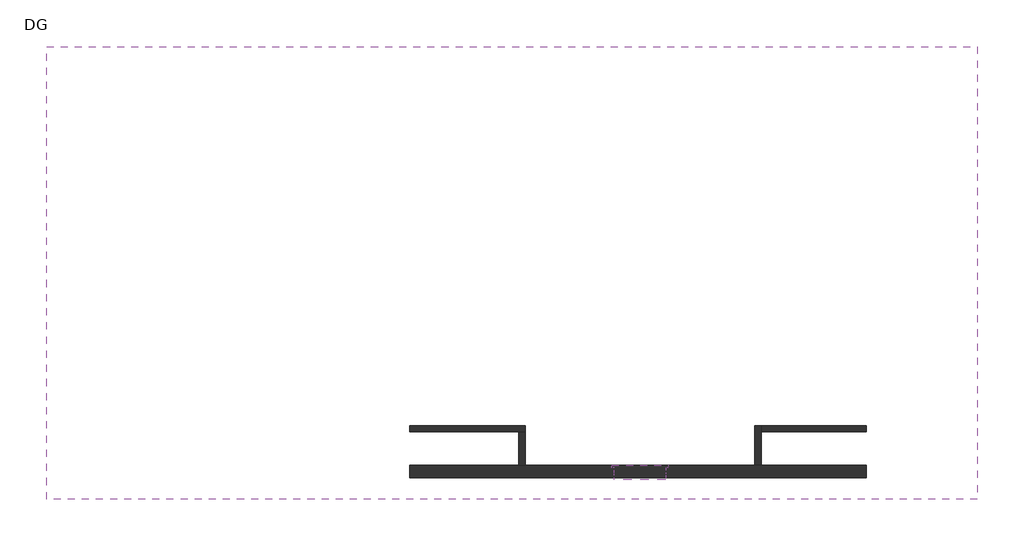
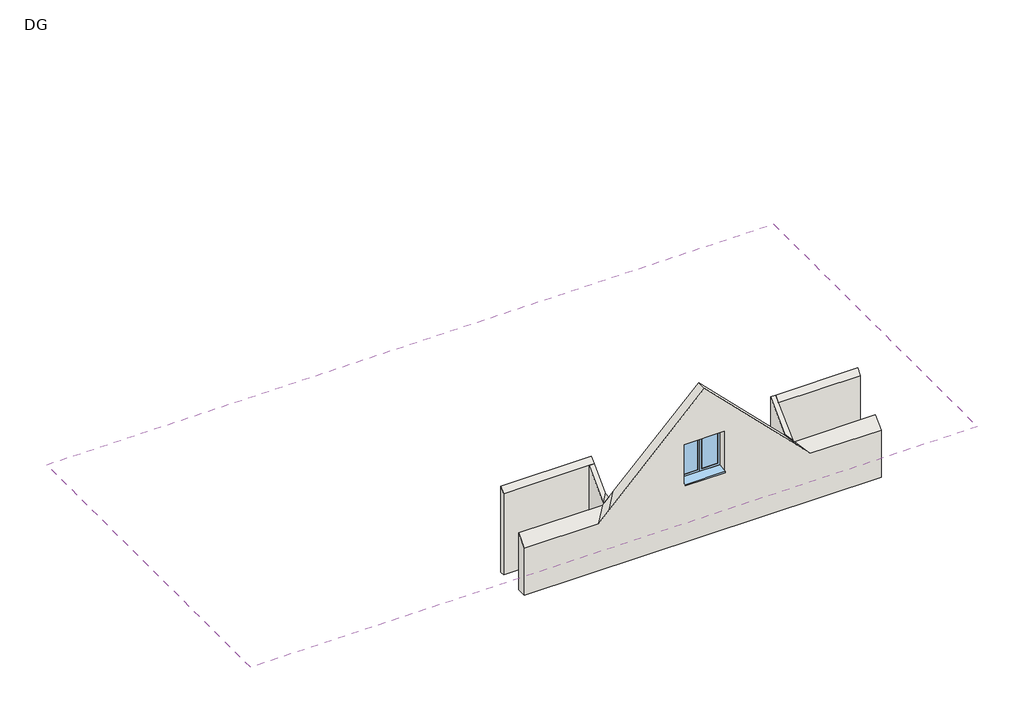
# One storey: 5 walls, 1 roof, 1 window.
"""IFC4 building model written with IfcOpenShell, lengths in millimetres."""

from ifc_helpers import new_model, si_unit, frame, origin, place, context, project, spatial, polyline, outline, extrude, faceted_brep, transform, mapped, element, save
from components import window_120_x_203_22d15c25

model = new_model("IFC4")

# Units and contexts
model_context = context("Model", 3, world=origin())
ifc_project = project(units=[si_unit("LENGTHUNIT", "METRE", prefix="MILLI")], contexts=[model_context])

# Site, building, storey
site = spatial("IfcSite", under=ifc_project)
building = spatial("IfcBuilding", under=site)
storey = spatial("IfcBuildingStorey", under=building, Name="DG", Elevation=5500.0)

# Roof
placement = place(None, origin())
element("IfcRoof", 1, ObjectType="Ziegel", at=placement, inside=storey, context=model_context, shape_type="Brep", body=[
    faceted_brep([(2093.7614381, 13791.1723893, 11800.0), (2093.7614381, 19091.1723893, 6500.0), (23893.7614381, 19091.1723893, 6500.0), (23893.7614381, 13791.1723893, 11800.0), (19173.7614381, 18591.1723893, 7000.0), (12813.7614381, 18591.1723893, 7000.0), (15993.7614381, 15411.1723893, 10180.0), (23893.7614381, 8491.1723893, 6500.0), (2093.7614381, 8491.1723893, 6500.0), (12813.7614381, 8991.1723893, 7000.0), (19173.7614381, 8991.1723893, 7000.0), (15993.7614381, 12171.1723893, 10180.0), (2093.7614381, 19091.1723893, 6825.2691193), (2093.7614381, 13791.1723893, 12125.2691193), (23893.7614381, 13791.1723893, 12125.2691193), (23893.7614381, 19091.1723893, 6825.2691193), (13139.0305574, 18591.1723893, 7325.2691193), (18848.4923187, 18591.1723893, 7325.2691193), (15993.7614381, 15736.4415086, 10180.0), (2093.7614381, 8491.1723893, 6825.2691193), (23893.7614381, 8491.1723893, 6825.2691193), (18848.4923187, 8991.1723893, 7325.2691193), (13139.0305574, 8991.1723893, 7325.2691193), (15993.7614381, 11845.9032699, 10180.0)], [[[0, 1, 2, 3], [4, 5, 6]], [[0, 3, 7, 8], [9, 10, 11]], [[12, 13, 14, 15], [16, 17, 18]], [[14, 13, 19, 20], [21, 22, 23]], [[20, 19, 8, 7]], [[12, 15, 2, 1]], [[1, 0, 8, 19, 13, 12]], [[3, 2, 15, 14, 20, 7]], [[21, 10, 9, 22]], [[10, 21, 23, 11]], [[22, 9, 11, 23]], [[16, 5, 4, 17]], [[5, 16, 18, 6]], [[17, 4, 6, 18]]]),
])

# Walls
element("IfcWall", 2, ObjectType="_Aussendämmung.Backstein", at=placement, inside=storey, context=model_context, shape_type="Brep", body=[
    faceted_brep([(21293.7614381, 9291.1723893, 5500.0), (18833.7614381, 9291.1723893, 5500.0), (18683.7614381, 9291.1723893, 5500.0), (13303.7614381, 9291.1723893, 5500.0), (13153.7614381, 9291.1723893, 5500.0), (10593.7614381, 9291.1723893, 5500.0), (10593.7614381, 9291.1723893, 7300.0), (13113.7614381, 9291.1723893, 7300.0), (13153.7614381, 9291.1723893, 7340.0), (13303.7614381, 9291.1723893, 7490.0), (13439.0305574, 9291.1723893, 7625.2691193), (15993.7614381, 9291.1723893, 10180.0), (18548.4923187, 9291.1723893, 7625.2691193), (18683.7614381, 9291.1723893, 7490.0), (18833.7614381, 9291.1723893, 7340.0), (18873.7614381, 9291.1723893, 7300.0), (21293.7614381, 9291.1723893, 7300.0), (16653.7614381, 9291.1723893, 8905.0), (15333.7614381, 9291.1723893, 8905.0), (15333.7614381, 9291.1723893, 7325.0), (16653.7614381, 9291.1723893, 7325.0), (21293.7614381, 8991.1723893, 5500.0), (21293.7614381, 8991.1723893, 7000.0), (19173.7614381, 8991.1723893, 7000.0), (18848.4923187, 8991.1723893, 7325.2691193), (15993.7614381, 8991.1723893, 10180.0), (13139.0305574, 8991.1723893, 7325.2691193), (12813.7614381, 8991.1723893, 7000.0), (10593.7614381, 8991.1723893, 7000.0), (10593.7614381, 8991.1723893, 5500.0), (15393.7614381, 8991.1723893, 7366.947672), (15393.7614381, 8991.1723893, 8605.0), (16593.7614381, 8991.1723893, 8605.0), (16593.7614381, 8991.1723893, 7366.947672), (16653.7614381, 9230.1723893, 8905.0), (16593.7614381, 9230.1723893, 8905.0), (16593.7614381, 9111.1723893, 8905.0), (15393.7614381, 9111.1723893, 8905.0), (15393.7614381, 9230.1723893, 8905.0), (15333.7614381, 9230.1723893, 8905.0), (15333.7614381, 9230.1723893, 7325.0), (15393.7614381, 9230.1723893, 7325.0), (15393.7614381, 9111.1723893, 7325.0), (16593.7614381, 9111.1723893, 7325.0), (16593.7614381, 9230.1723893, 7325.0), (16653.7614381, 9230.1723893, 7325.0), (15393.7614381, 9111.1723893, 8845.0), (15393.7614381, 9051.1723893, 8845.0), (15393.7614381, 9051.1723893, 8605.0), (15393.7614381, 9111.1723893, 7383.5110523), (16593.7614381, 9111.1723893, 8845.0), (16593.7614381, 9111.1723893, 7383.5110523), (16593.7614381, 9051.1723893, 8605.0), (16593.7614381, 9051.1723893, 8845.0)], [[[0, 1, 2, 3, 4, 5, 6, 7, 8, 9, 10, 11, 12, 13, 14, 15, 16], [17, 18, 19, 20]], [[21, 22, 23, 24, 25, 26, 27, 28, 29], [30, 31, 32, 33]], [[5, 4, 3, 2, 1, 0, 21, 29]], [[6, 5, 29, 28]], [[0, 16, 22, 21]], [[12, 11, 25, 24]], [[11, 10, 26, 25]], [[7, 6, 28, 27]], [[15, 14, 13, 12, 24, 23]], [[10, 9, 8, 7, 27, 26]], [[16, 15, 23, 22]], [[17, 34, 35, 36, 37, 38, 39, 18]], [[19, 40, 41, 42, 43, 44, 45, 20]], [[18, 39, 40, 19]], [[40, 39, 38, 41]], [[34, 45, 44, 35]], [[34, 17, 20, 45]], [[46, 47, 48, 31, 30, 49, 42, 41, 38, 37]], [[50, 36, 35, 44, 43, 51, 33, 32, 52, 53]], [[46, 37, 36, 50]], [[42, 49, 51, 43]], [[47, 46, 50, 53]], [[49, 30, 33, 51]], [[31, 48, 52, 32]], [[48, 47, 53, 52]]]),
])
element("IfcWall", 3, ObjectType="Backstein 15.0", at=placement, inside=storey, context=model_context, shape_type="Brep", body=[
    faceted_brep([(13153.7614381, 10066.1723893, 5500.0), (13153.7614381, 9291.1723893, 5500.0), (13153.7614381, 9291.1723893, 7340.0), (13153.7614381, 9331.1723893, 7340.0), (13153.7614381, 10066.1723893, 8075.0), (13303.7614381, 10066.1723893, 5500.0), (13303.7614381, 10066.1723893, 8075.0), (13303.7614381, 9481.1723893, 7490.0), (13303.7614381, 9291.1723893, 7490.0), (13303.7614381, 9291.1723893, 5500.0)], [[[0, 1, 2, 3, 4]], [[5, 6, 7, 8, 9]], [[1, 0, 5, 9]], [[2, 1, 9, 8]], [[0, 4, 6, 5]], [[4, 3, 7, 6]], [[3, 2, 8, 7]]]),
])
element("IfcWall", 4, ObjectType="Backstein 15.0", at=placement, inside=storey, context=model_context, shape_type="Brep", body=[
    faceted_brep([(18683.7614381, 10216.1723893, 5500.0), (18683.7614381, 9291.1723893, 5500.0), (18683.7614381, 9291.1723893, 7490.0), (18683.7614381, 9481.1723893, 7490.0), (18683.7614381, 10216.1723893, 8225.0), (18833.7614381, 10216.1723893, 5500.0), (18833.7614381, 10216.1723893, 8225.0), (18833.7614381, 10066.1723893, 8075.0), (18833.7614381, 9331.1723893, 7340.0), (18833.7614381, 9291.1723893, 7340.0), (18833.7614381, 9291.1723893, 5500.0), (18833.7614381, 10066.1723893, 5500.0)], [[[0, 1, 2, 3, 4]], [[5, 6, 7, 8, 9, 10, 11]], [[1, 0, 5, 11, 10]], [[0, 4, 6, 5]], [[2, 1, 10, 9]], [[4, 3, 8, 7, 6]], [[3, 2, 9, 8]]]),
])
element("IfcWall", 5, ObjectType="Backstein 15.0", at=placement, inside=storey, context=model_context, shape_type="Brep", body=[
    faceted_brep([(13303.7614381, 10216.1723893, 5500.0), (10593.7614381, 10216.1723893, 5500.0), (10593.7614381, 10216.1723893, 8225.0), (13303.7614381, 10216.1723893, 8225.0), (13303.7614381, 10066.1723893, 5500.0), (13303.7614381, 10066.1723893, 8075.0), (13153.7614381, 10066.1723893, 8075.0), (10593.7614381, 10066.1723893, 8075.0), (10593.7614381, 10066.1723893, 5500.0), (13153.7614381, 10066.1723893, 5500.0)], [[[0, 1, 2, 3]], [[4, 5, 6, 7, 8, 9]], [[1, 0, 4, 9, 8]], [[2, 1, 8, 7]], [[0, 3, 5, 4]], [[3, 2, 7, 6, 5]]]),
])
element("IfcWall", 6, ObjectType="Backstein 15.0", at=placement, inside=storey, context=model_context, shape_type="SweptSolid", body=[
    extrude(outline(polyline([(10066.1723893, 5500.0), (10066.1723893, 8075.0), (10216.1723893, 8225.0), (10216.1723893, 5500.0), (10066.1723893, 5500.0)])), frame((18833.7614381, 0.0, 0.0), z_axis=(1.0, 0.0, 0.0), x_axis=(0.0, 1.0, 0.0)), (0.0, 0.0, 1.0), 2460.0),
])

# Window
window_120_x_203_shape = window_120_x_203_22d15c25(model_context)
element("IfcWindow", 7, ObjectType="AD 2-flg - Verblendet : 120 x 203", at=placement, inside=storey, context=model_context, shape_type="MappedRepresentation", body=[
    mapped(window_120_x_203_shape, transform((15913.7614381, 9141.1723893, 6555.0), x_axis=(-1.0, 0.0, 0.0), y_axis=(0.0, -1.0, 0.0), z_axis=(0.0, 0.0, 1.0))),
])

save(model, "model.ifc")
